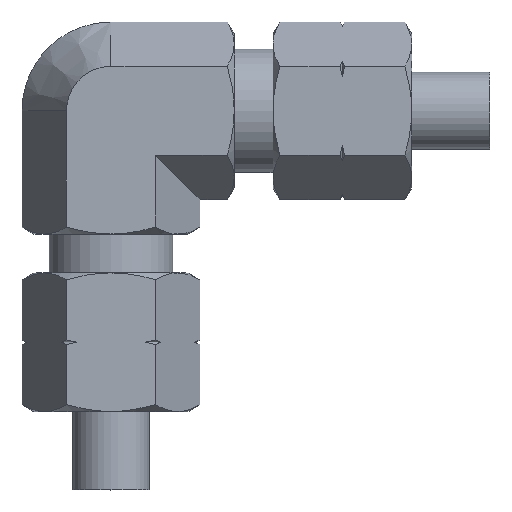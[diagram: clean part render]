
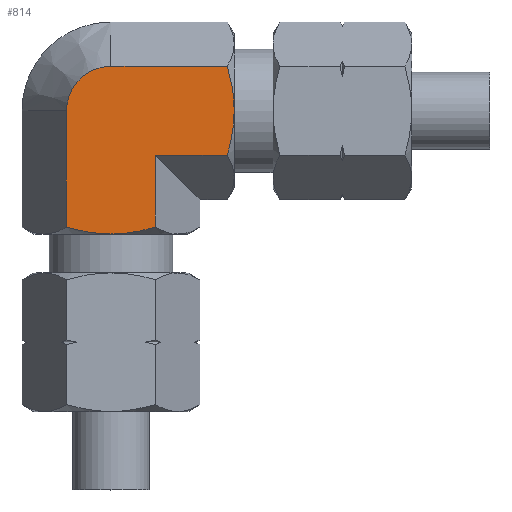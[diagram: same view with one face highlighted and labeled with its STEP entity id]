
A CAD part, top view. The second image highlights one B-rep face of the part: STEP entity #814.
In plain terms, the highlighted planar face has unit normal (0, 0, 1).
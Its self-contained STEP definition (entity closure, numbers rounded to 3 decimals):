
#421=CARTESIAN_POINT('',(0.,-8.0,5.));
#422=VERTEX_POINT('',#421);
#423=CARTESIAN_POINT('',(2.887,-7.553,5.));
#424=VERTEX_POINT('',#423);
#425=CARTESIAN_POINT('',(0.,-8.,5.));
#426=CARTESIAN_POINT('',(1.34,-8.,5.));
#427=CARTESIAN_POINT('',(2.887,-7.553,5.));
#435=(BOUNDED_CURVE()B_SPLINE_CURVE(2,(#425,#426,#427),.UNSPECIFIED.,.F.,.U.)B_SPLINE_CURVE_WITH_KNOTS((3,3),(0.293,0.586),.UNSPECIFIED.)CURVE()GEOMETRIC_REPRESENTATION_ITEM()RATIONAL_B_SPLINE_CURVE((1.0,1.038,1.0))REPRESENTATION_ITEM(''));
#436=EDGE_CURVE('',#422,#424,#435,.T.);
#515=CARTESIAN_POINT('',(-2.887,-7.553,5.));
#516=VERTEX_POINT('',#515);
#537=CARTESIAN_POINT('',(-2.887,-7.553,5.));
#538=CARTESIAN_POINT('',(-1.34,-8.,5.));
#539=CARTESIAN_POINT('',(0.,-8.,5.));
#547=(BOUNDED_CURVE()B_SPLINE_CURVE(2,(#537,#538,#539),.UNSPECIFIED.,.F.,.U.)B_SPLINE_CURVE_WITH_KNOTS((3,3),(0.0,0.293),.UNSPECIFIED.)CURVE()GEOMETRIC_REPRESENTATION_ITEM()RATIONAL_B_SPLINE_CURVE((1.0,1.038,1.0))REPRESENTATION_ITEM(''));
#548=EDGE_CURVE('',#516,#422,#547,.T.);
#725=CARTESIAN_POINT('',(-2.887,0.,5.));
#726=VERTEX_POINT('',#725);
#727=CARTESIAN_POINT('',(-2.887,-7.553,5.));
#728=DIRECTION('',(0.,1.0,0.));
#729=VECTOR('',#728,7.553);
#730=LINE('',#727,#729);
#731=EDGE_CURVE('',#516,#726,#730,.T.);
#743=CARTESIAN_POINT('',(8.,-2.887,5.));
#744=DIRECTION('',(0.0,0.0,1.0));
#745=DIRECTION('',(1.0,0.0,0.0));
#746=AXIS2_PLACEMENT_3D('',#743,#744,#745);
#747=PLANE('',#746);
#748=ORIENTED_EDGE('',*,*,#548,.T.);
#749=ORIENTED_EDGE('',*,*,#436,.T.);
#750=CARTESIAN_POINT('',(2.887,-2.887,5.));
#751=VERTEX_POINT('',#750);
#752=CARTESIAN_POINT('',(2.887,-7.553,5.));
#753=DIRECTION('',(0.,1.0,0.));
#754=VECTOR('',#753,4.667);
#755=LINE('',#752,#754);
#756=EDGE_CURVE('',#424,#751,#755,.T.);
#757=ORIENTED_EDGE('',*,*,#756,.T.);
#758=CARTESIAN_POINT('',(7.553,-2.887,5.));
#759=VERTEX_POINT('',#758);
#760=CARTESIAN_POINT('',(2.887,-2.887,5.));
#761=DIRECTION('',(1.0,0.,0.));
#762=VECTOR('',#761,4.667);
#763=LINE('',#760,#762);
#764=EDGE_CURVE('',#751,#759,#763,.T.);
#765=ORIENTED_EDGE('',*,*,#764,.T.);
#766=CARTESIAN_POINT('',(8.,0.,5.));
#767=VERTEX_POINT('',#766);
#768=CARTESIAN_POINT('',(8.,0.,5.));
#769=CARTESIAN_POINT('',(8.,-1.34,5.));
#770=CARTESIAN_POINT('',(7.553,-2.887,5.));
#778=(BOUNDED_CURVE()B_SPLINE_CURVE(2,(#768,#769,#770),.UNSPECIFIED.,.F.,.U.)B_SPLINE_CURVE_WITH_KNOTS((3,3),(0.293,0.586),.UNSPECIFIED.)CURVE()GEOMETRIC_REPRESENTATION_ITEM()RATIONAL_B_SPLINE_CURVE((1.0,1.038,1.0))REPRESENTATION_ITEM(''));
#779=EDGE_CURVE('',#767,#759,#778,.T.);
#780=ORIENTED_EDGE('',*,*,#779,.F.);
#781=CARTESIAN_POINT('',(7.553,2.887,5.));
#782=VERTEX_POINT('',#781);
#783=CARTESIAN_POINT('',(7.553,2.887,5.));
#784=CARTESIAN_POINT('',(8.,1.34,5.));
#785=CARTESIAN_POINT('',(8.,0.,5.));
#793=(BOUNDED_CURVE()B_SPLINE_CURVE(2,(#783,#784,#785),.UNSPECIFIED.,.F.,.U.)B_SPLINE_CURVE_WITH_KNOTS((3,3),(0.0,0.293),.UNSPECIFIED.)CURVE()GEOMETRIC_REPRESENTATION_ITEM()RATIONAL_B_SPLINE_CURVE((1.0,1.038,1.0))REPRESENTATION_ITEM(''));
#794=EDGE_CURVE('',#782,#767,#793,.T.);
#795=ORIENTED_EDGE('',*,*,#794,.F.);
#796=CARTESIAN_POINT('',(0.0,2.887,5.));
#797=VERTEX_POINT('',#796);
#798=CARTESIAN_POINT('',(0.0,2.887,5.));
#799=DIRECTION('',(1.0,0.,0.0));
#800=VECTOR('',#799,7.553);
#801=LINE('',#798,#800);
#802=EDGE_CURVE('',#797,#782,#801,.T.);
#803=ORIENTED_EDGE('',*,*,#802,.F.);
#804=CARTESIAN_POINT('',(0.,0.,5.));
#805=DIRECTION('',(0.0,0.0,1.0));
#806=DIRECTION('',(0.,1.0,0.0));
#807=AXIS2_PLACEMENT_3D('',#804,#805,#806);
#808=CIRCLE('',#807,2.887);
#809=EDGE_CURVE('',#797,#726,#808,.T.);
#810=ORIENTED_EDGE('',*,*,#809,.T.);
#811=ORIENTED_EDGE('',*,*,#731,.F.);
#812=EDGE_LOOP('',(#748,#749,#757,#765,#780,#795,#803,#810,#811));
#813=FACE_OUTER_BOUND('',#812,.T.);
#814=ADVANCED_FACE('',(#813),#747,.T.);
